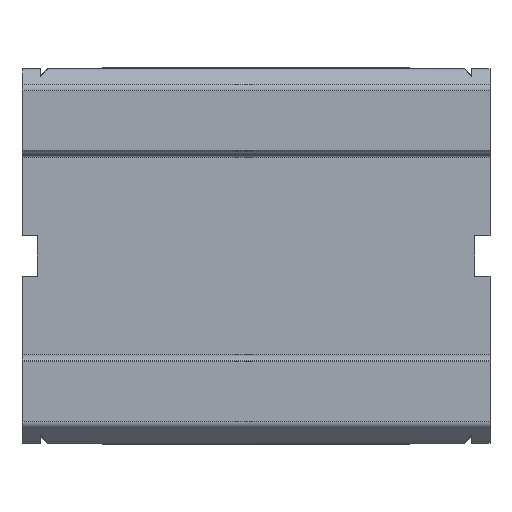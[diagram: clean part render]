
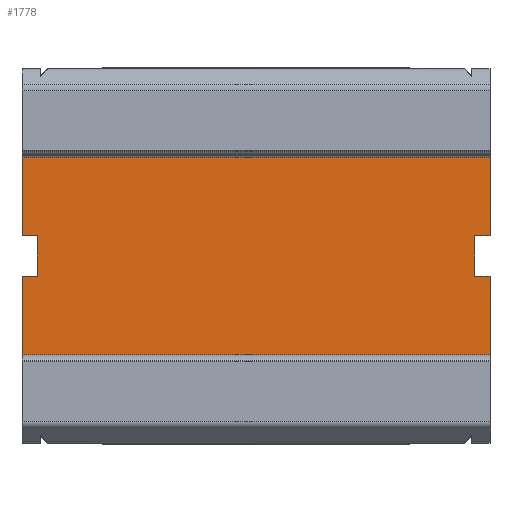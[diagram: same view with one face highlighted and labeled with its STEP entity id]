
A CAD part, front view. The second image highlights one B-rep face of the part: STEP entity #1778.
In plain terms, the highlighted planar face has unit normal (0, -1, 0).
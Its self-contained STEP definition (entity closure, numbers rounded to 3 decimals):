
#547=ORIENTED_EDGE('',*,*,#700,.T.);
#548=ORIENTED_EDGE('',*,*,#696,.F.);
#549=ORIENTED_EDGE('',*,*,#647,.F.);
#550=ORIENTED_EDGE('',*,*,#845,.F.);
#551=ORIENTED_EDGE('',*,*,#688,.T.);
#552=ORIENTED_EDGE('',*,*,#711,.T.);
#553=ORIENTED_EDGE('',*,*,#706,.F.);
#554=ORIENTED_EDGE('',*,*,#713,.T.);
#555=ORIENTED_EDGE('',*,*,#669,.T.);
#556=ORIENTED_EDGE('',*,*,#846,.T.);
#557=ORIENTED_EDGE('',*,*,#635,.F.);
#558=ORIENTED_EDGE('',*,*,#694,.F.);
#635=EDGE_CURVE('',#879,#880,#1048,.T.);
#647=EDGE_CURVE('',#891,#892,#1054,.T.);
#669=EDGE_CURVE('',#911,#910,#1070,.T.);
#688=EDGE_CURVE('',#929,#928,#1082,.T.);
#694=EDGE_CURVE('',#934,#879,#1085,.T.);
#696=EDGE_CURVE('',#892,#935,#1087,.F.);
#700=EDGE_CURVE('',#934,#935,#1089,.T.);
#706=EDGE_CURVE('',#942,#943,#1093,.T.);
#711=EDGE_CURVE('',#928,#943,#1097,.F.);
#713=EDGE_CURVE('',#942,#911,#1099,.T.);
#845=EDGE_CURVE('',#929,#891,#1207,.T.);
#846=EDGE_CURVE('',#910,#880,#1208,.T.);
#879=VERTEX_POINT('',#2514);
#880=VERTEX_POINT('',#2516);
#891=VERTEX_POINT('',#2539);
#892=VERTEX_POINT('',#2541);
#910=VERTEX_POINT('',#2583);
#911=VERTEX_POINT('',#2585);
#928=VERTEX_POINT('',#2621);
#929=VERTEX_POINT('',#2623);
#934=VERTEX_POINT('',#2634);
#935=VERTEX_POINT('',#2639);
#942=VERTEX_POINT('',#2657);
#943=VERTEX_POINT('',#2659);
#1048=LINE('',#2515,#1236);
#1054=LINE('',#2540,#1242);
#1070=LINE('',#2584,#1258);
#1082=LINE('',#2622,#1270);
#1085=LINE('',#2635,#1273);
#1087=LINE('',#2638,#1275);
#1089=LINE('',#2646,#1277);
#1093=LINE('',#2658,#1281);
#1097=LINE('',#2668,#1285);
#1099=LINE('',#2671,#1287);
#1207=LINE('',#2952,#1395);
#1208=LINE('',#2953,#1396);
#1236=VECTOR('',#2003,1000.);
#1242=VECTOR('',#2023,1000.);
#1258=VECTOR('',#2057,1000.);
#1270=VECTOR('',#2085,1000.);
#1273=VECTOR('',#2096,1000.);
#1275=VECTOR('',#2100,1000.);
#1277=VECTOR('',#2108,1000.);
#1281=VECTOR('',#2118,1000.);
#1285=VECTOR('',#2126,1000.);
#1287=VECTOR('',#2130,1000.);
#1395=VECTOR('',#2420,1000.);
#1396=VECTOR('',#2421,1000.);
#1503=EDGE_LOOP('',(#547,#548,#549,#550,#551,#552,#553,#554,#555,#556,#557,
#558));
#1619=FACE_BOUND('',#1503,.T.);
#1689=PLANE('',#1945);
#1778=ADVANCED_FACE('',(#1619),#1689,.T.);
#1945=AXIS2_PLACEMENT_3D('',#2951,#2418,#2419);
#2003=DIRECTION('',(0.,0.,1.));
#2023=DIRECTION('',(0.,0.,1.));
#2057=DIRECTION('',(0.,0.,1.));
#2085=DIRECTION('',(0.,0.,1.));
#2096=DIRECTION('',(-1.,0.,0.));
#2100=DIRECTION('',(-1.,0.,0.));
#2108=DIRECTION('',(0.,0.,-1.));
#2118=DIRECTION('',(0.,0.,-1.));
#2126=DIRECTION('',(1.,0.,0.));
#2130=DIRECTION('',(1.,0.,0.));
#2418=DIRECTION('',(0.,-1.,0.));
#2419=DIRECTION('',(0.,0.,-1.));
#2420=DIRECTION('',(-1.,0.,0.));
#2421=DIRECTION('',(-1.,0.,0.));
#2514=CARTESIAN_POINT('',(-15.5,3.4,1.327));
#2515=CARTESIAN_POINT('',(-15.5,3.4,-6.7));
#2516=CARTESIAN_POINT('',(-15.5,3.4,6.7));
#2539=CARTESIAN_POINT('',(-15.5,3.4,-6.7));
#2540=CARTESIAN_POINT('',(-15.5,3.4,-6.7));
#2541=CARTESIAN_POINT('',(-15.5,3.4,-1.327));
#2583=CARTESIAN_POINT('',(15.5,3.4,6.7));
#2584=CARTESIAN_POINT('',(15.5,3.4,-6.7));
#2585=CARTESIAN_POINT('',(15.5,3.4,1.327));
#2621=CARTESIAN_POINT('',(15.5,3.4,-1.327));
#2622=CARTESIAN_POINT('',(15.5,3.4,-6.7));
#2623=CARTESIAN_POINT('',(15.5,3.4,-6.7));
#2634=CARTESIAN_POINT('',(-14.5,3.4,1.327));
#2635=CARTESIAN_POINT('',(-14.5,3.4,1.327));
#2638=CARTESIAN_POINT('',(-14.5,3.4,-1.327));
#2639=CARTESIAN_POINT('',(-14.5,3.4,-1.327));
#2646=CARTESIAN_POINT('',(-14.5,3.4,0.));
#2657=CARTESIAN_POINT('',(14.5,3.4,1.327));
#2658=CARTESIAN_POINT('',(14.5,3.4,0.));
#2659=CARTESIAN_POINT('',(14.5,3.4,-1.327));
#2668=CARTESIAN_POINT('',(14.5,3.4,-1.327));
#2671=CARTESIAN_POINT('',(14.5,3.4,1.327));
#2951=CARTESIAN_POINT('',(15.5,3.4,-6.7));
#2952=CARTESIAN_POINT('',(15.5,3.4,-6.7));
#2953=CARTESIAN_POINT('',(15.5,3.4,6.7));
